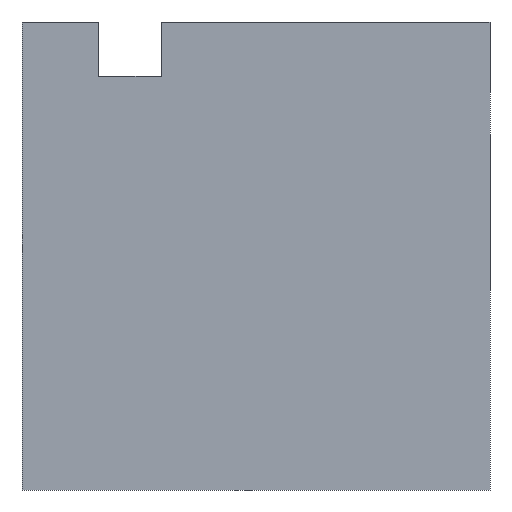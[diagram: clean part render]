
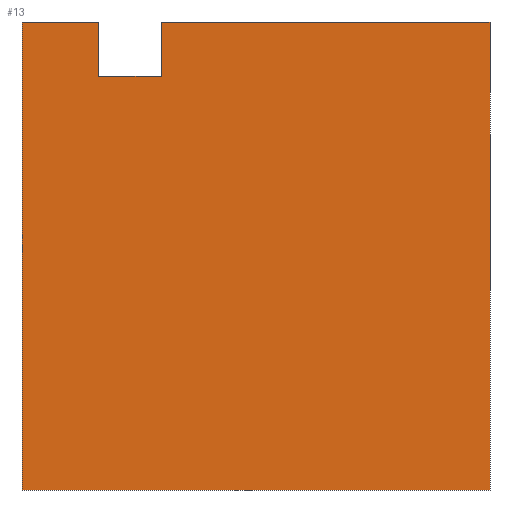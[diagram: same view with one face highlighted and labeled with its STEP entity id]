
A CAD part, front view. The second image highlights one B-rep face of the part: STEP entity #13.
In plain terms, the highlighted planar face has unit normal (0, -1, 0).
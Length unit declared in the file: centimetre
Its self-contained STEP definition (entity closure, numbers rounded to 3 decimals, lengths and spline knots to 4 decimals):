
#10 = EDGE_CURVE ( 'NONE', #287, #468, #722, .T. ) ;
#13 = ADVANCED_FACE ( 'NONE', ( #339 ), #891, .F. ) ;
#49 = DIRECTION ( 'NONE',  ( -1., 0., 0. ) ) ;
#56 = CARTESIAN_POINT ( 'NONE',  ( 164.4583, 0., 884.4816 ) ) ;
#63 = VECTOR ( 'NONE', #920, 100. ) ;
#75 = CARTESIAN_POINT ( 'NONE',  ( 164.4583, 0., 1000. ) ) ;
#105 = VERTEX_POINT ( 'NONE', #75 ) ;
#107 = VERTEX_POINT ( 'NONE', #306 ) ;
#116 = DIRECTION ( 'NONE',  ( 0., 0., 1. ) ) ;
#132 = LINE ( 'NONE', #525, #818 ) ;
#139 = CARTESIAN_POINT ( 'NONE',  ( 1000., 0., 1000. ) ) ;
#168 = VERTEX_POINT ( 'NONE', #139 ) ;
#198 = CARTESIAN_POINT ( 'NONE',  ( 164.4583, 0., 884.4816 ) ) ;
#203 = DIRECTION ( 'NONE',  ( 1., 0., 0. ) ) ;
#208 = VECTOR ( 'NONE', #359, 100. ) ;
#219 = CARTESIAN_POINT ( 'NONE',  ( 0., 0., 1000. ) ) ;
#223 = DIRECTION ( 'NONE',  ( 0., 0., -1. ) ) ;
#241 = VECTOR ( 'NONE', #49, 100. ) ;
#248 = ORIENTED_EDGE ( 'NONE', *, *, #785, .F. ) ;
#265 = VERTEX_POINT ( 'NONE', #294 ) ;
#267 = ORIENTED_EDGE ( 'NONE', *, *, #624, .T. ) ;
#277 = EDGE_CURVE ( 'NONE', #265, #168, #282, .T. ) ;
#278 = CARTESIAN_POINT ( 'NONE',  ( 0., 0., 0. ) ) ;
#282 = LINE ( 'NONE', #685, #415 ) ;
#286 = EDGE_CURVE ( 'NONE', #168, #107, #604, .T. ) ;
#287 = VERTEX_POINT ( 'NONE', #925 ) ;
#291 = VERTEX_POINT ( 'NONE', #219 ) ;
#294 = CARTESIAN_POINT ( 'NONE',  ( 297.059, 0., 1000. ) ) ;
#297 = DIRECTION ( 'NONE',  ( 1., 0., 0. ) ) ;
#299 = EDGE_CURVE ( 'NONE', #265, #287, #132, .T. ) ;
#306 = CARTESIAN_POINT ( 'NONE',  ( 1000., 0., 0. ) ) ;
#318 = LINE ( 'NONE', #693, #777 ) ;
#339 = FACE_OUTER_BOUND ( 'NONE', #551, .T. ) ;
#344 = EDGE_CURVE ( 'NONE', #588, #107, #517, .T. ) ;
#359 = DIRECTION ( 'NONE',  ( 0., 0., 1. ) ) ;
#413 = DIRECTION ( 'NONE',  ( 1., 0., 0. ) ) ;
#415 = VECTOR ( 'NONE', #297, 100. ) ;
#426 = LINE ( 'NONE', #813, #1012 ) ;
#447 = EDGE_CURVE ( 'NONE', #468, #105, #751, .T. ) ;
#468 = VERTEX_POINT ( 'NONE', #506 ) ;
#495 = CARTESIAN_POINT ( 'NONE',  ( 0., 0., 1000. ) ) ;
#506 = CARTESIAN_POINT ( 'NONE',  ( 164.4583, 0., 884.4816 ) ) ;
#508 = ORIENTED_EDGE ( 'NONE', *, *, #277, .F. ) ;
#517 = LINE ( 'NONE', #278, #984 ) ;
#525 = CARTESIAN_POINT ( 'NONE',  ( 297.059, 0., 884.4816 ) ) ;
#551 = EDGE_LOOP ( 'NONE', ( #993, #944, #248, #267, #830, #639, #508, #595 ) ) ;
#579 = DIRECTION ( 'NONE',  ( 0., 1., 0. ) ) ;
#585 = CARTESIAN_POINT ( 'NONE',  ( 1000., 0., 1000. ) ) ;
#588 = VERTEX_POINT ( 'NONE', #774 ) ;
#595 = ORIENTED_EDGE ( 'NONE', *, *, #299, .T. ) ;
#604 = LINE ( 'NONE', #585, #63 ) ;
#624 = EDGE_CURVE ( 'NONE', #291, #588, #318, .T. ) ;
#627 = DIRECTION ( 'NONE',  ( 0., 0., -1. ) ) ;
#639 = ORIENTED_EDGE ( 'NONE', *, *, #286, .F. ) ;
#685 = CARTESIAN_POINT ( 'NONE',  ( 0., 0., 1000. ) ) ;
#693 = CARTESIAN_POINT ( 'NONE',  ( 0., 0., 1000. ) ) ;
#722 = LINE ( 'NONE', #198, #241 ) ;
#728 = AXIS2_PLACEMENT_3D ( 'NONE', #495, #579, #116 ) ;
#751 = LINE ( 'NONE', #56, #208 ) ;
#774 = CARTESIAN_POINT ( 'NONE',  ( 0., 0., 0. ) ) ;
#777 = VECTOR ( 'NONE', #627, 100. ) ;
#785 = EDGE_CURVE ( 'NONE', #291, #105, #426, .T. ) ;
#813 = CARTESIAN_POINT ( 'NONE',  ( 0., 0., 1000. ) ) ;
#818 = VECTOR ( 'NONE', #223, 100. ) ;
#830 = ORIENTED_EDGE ( 'NONE', *, *, #344, .T. ) ;
#891 = PLANE ( 'NONE',  #728 ) ;
#920 = DIRECTION ( 'NONE',  ( 0., 0., -1. ) ) ;
#925 = CARTESIAN_POINT ( 'NONE',  ( 297.059, 0., 884.4816 ) ) ;
#944 = ORIENTED_EDGE ( 'NONE', *, *, #447, .T. ) ;
#984 = VECTOR ( 'NONE', #203, 100. ) ;
#993 = ORIENTED_EDGE ( 'NONE', *, *, #10, .T. ) ;
#1012 = VECTOR ( 'NONE', #413, 100. ) ;
